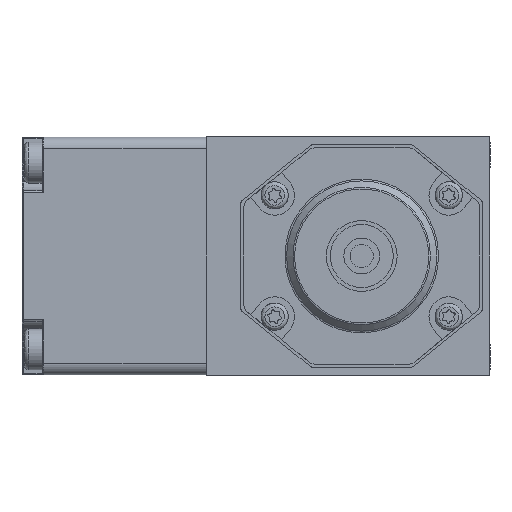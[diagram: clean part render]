
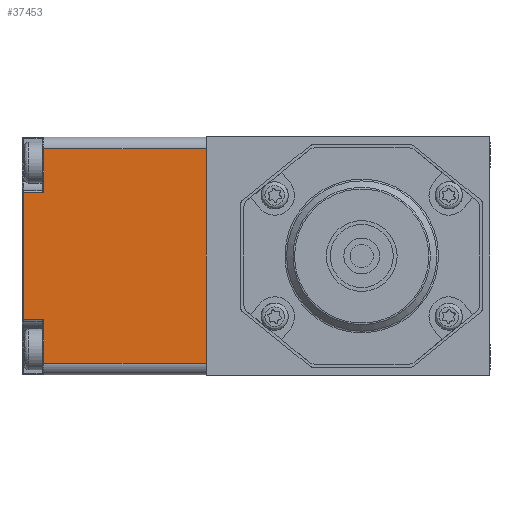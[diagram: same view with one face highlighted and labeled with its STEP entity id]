
A CAD part, left-side view. The second image highlights one B-rep face of the part: STEP entity #37453.
In plain terms, the highlighted planar face has unit normal (-1, 0, 0).
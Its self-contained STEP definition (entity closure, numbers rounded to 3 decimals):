
#825 = EDGE_CURVE ( 'NONE', #32311, #38876, #6198, .T. ) ;
#1169 = CARTESIAN_POINT ( 'NONE',  ( -24.2, 38.1, 8.2 ) ) ;
#3423 = VERTEX_POINT ( 'NONE', #11623 ) ;
#3430 = VECTOR ( 'NONE', #23745, 1000. ) ;
#4108 = EDGE_CURVE ( 'NONE', #38876, #37540, #23415, .T. ) ;
#4874 = VERTEX_POINT ( 'NONE', #41033 ) ;
#5304 = EDGE_CURVE ( 'NONE', #24760, #32311, #43080, .T. ) ;
#5579 = VECTOR ( 'NONE', #15955, 1000. ) ;
#6198 = LINE ( 'NONE', #39230, #35915 ) ;
#6400 = AXIS2_PLACEMENT_3D ( 'NONE', #41965, #30909, #8607 ) ;
#7587 = CARTESIAN_POINT ( 'NONE',  ( -24.2, 38.1, -8.2 ) ) ;
#8303 = LINE ( 'NONE', #36155, #28117 ) ;
#8607 = DIRECTION ( 'NONE',  ( 0., 0., -1. ) ) ;
#8989 = LINE ( 'NONE', #44030, #38709 ) ;
#9179 = EDGE_CURVE ( 'NONE', #3423, #35553, #8989, .T. ) ;
#9260 = ORIENTED_EDGE ( 'NONE', *, *, #20535, .T. ) ;
#10414 = DIRECTION ( 'NONE',  ( 0., -1., 0. ) ) ;
#11369 = ORIENTED_EDGE ( 'NONE', *, *, #38631, .F. ) ;
#11623 = CARTESIAN_POINT ( 'NONE',  ( -24.2, 40.9, 8.2 ) ) ;
#12348 = CARTESIAN_POINT ( 'NONE',  ( -24.2, 43.5, -15.3 ) ) ;
#13331 = LINE ( 'NONE', #12348, #3430 ) ;
#14974 = EDGE_CURVE ( 'NONE', #37540, #29392, #13331, .T. ) ;
#15955 = DIRECTION ( 'NONE',  ( 0., -1., 0. ) ) ;
#17480 = ORIENTED_EDGE ( 'NONE', *, *, #5304, .F. ) ;
#18939 = ORIENTED_EDGE ( 'NONE', *, *, #4108, .F. ) ;
#20535 = EDGE_CURVE ( 'NONE', #24760, #4874, #8303, .T. ) ;
#20537 = LINE ( 'NONE', #32730, #40325 ) ;
#21023 = DIRECTION ( 'NONE',  ( 0., 0., 1. ) ) ;
#22076 = FACE_OUTER_BOUND ( 'NONE', #30433, .T. ) ;
#23275 = CARTESIAN_POINT ( 'NONE',  ( -24.2, 40.9, -8.2 ) ) ;
#23415 = LINE ( 'NONE', #7587, #42030 ) ;
#23433 = PLANE ( 'NONE',  #6400 ) ;
#23744 = CARTESIAN_POINT ( 'NONE',  ( -24.2, 43.5, 8.2 ) ) ;
#23745 = DIRECTION ( 'NONE',  ( 0., 0., 1. ) ) ;
#24760 = VERTEX_POINT ( 'NONE', #47046 ) ;
#25527 = DIRECTION ( 'NONE',  ( 0., 0., 1. ) ) ;
#25876 = DIRECTION ( 'NONE',  ( 0., 1., 0. ) ) ;
#26641 = CARTESIAN_POINT ( 'NONE',  ( -24.2, 40.9, 13.8 ) ) ;
#28117 = VECTOR ( 'NONE', #21023, 1000. ) ;
#29392 = VERTEX_POINT ( 'NONE', #23744 ) ;
#29584 = ORIENTED_EDGE ( 'NONE', *, *, #825, .F. ) ;
#30243 = DIRECTION ( 'NONE',  ( 0., 1., 0. ) ) ;
#30433 = EDGE_LOOP ( 'NONE', ( #11369, #39322, #39694, #47270, #18939, #29584, #17480, #9260 ) ) ;
#30909 = DIRECTION ( 'NONE',  ( 1., 0., 0. ) ) ;
#32311 = VERTEX_POINT ( 'NONE', #33740 ) ;
#32730 = CARTESIAN_POINT ( 'NONE',  ( -24.2, 38.1, 13.8 ) ) ;
#33161 = CARTESIAN_POINT ( 'NONE',  ( -24.2, 38.1, -13.8 ) ) ;
#33740 = CARTESIAN_POINT ( 'NONE',  ( -24.2, 40.9, -13.8 ) ) ;
#35553 = VERTEX_POINT ( 'NONE', #26641 ) ;
#35915 = VECTOR ( 'NONE', #38298, 1000. ) ;
#36155 = CARTESIAN_POINT ( 'NONE',  ( -24.2, 20., 15.35 ) ) ;
#37453 = ADVANCED_FACE ( 'NONE', ( #22076 ), #23433, .F. ) ;
#37540 = VERTEX_POINT ( 'NONE', #38570 ) ;
#37961 = VECTOR ( 'NONE', #25876, 1000. ) ;
#38298 = DIRECTION ( 'NONE',  ( 0., 0., 1. ) ) ;
#38570 = CARTESIAN_POINT ( 'NONE',  ( -24.2, 43.5, -8.2 ) ) ;
#38631 = EDGE_CURVE ( 'NONE', #35553, #4874, #20537, .T. ) ;
#38709 = VECTOR ( 'NONE', #25527, 1000. ) ;
#38876 = VERTEX_POINT ( 'NONE', #23275 ) ;
#39230 = CARTESIAN_POINT ( 'NONE',  ( -24.2, 40.9, -15.3 ) ) ;
#39322 = ORIENTED_EDGE ( 'NONE', *, *, #9179, .F. ) ;
#39694 = ORIENTED_EDGE ( 'NONE', *, *, #43149, .F. ) ;
#40325 = VECTOR ( 'NONE', #10414, 1000. ) ;
#41033 = CARTESIAN_POINT ( 'NONE',  ( -24.2, 20., 13.8 ) ) ;
#41965 = CARTESIAN_POINT ( 'NONE',  ( -24.2, 38.1, -15.3 ) ) ;
#42030 = VECTOR ( 'NONE', #30243, 1000. ) ;
#43080 = LINE ( 'NONE', #33161, #37961 ) ;
#43149 = EDGE_CURVE ( 'NONE', #29392, #3423, #46279, .T. ) ;
#44030 = CARTESIAN_POINT ( 'NONE',  ( -24.2, 40.9, -15.3 ) ) ;
#46279 = LINE ( 'NONE', #1169, #5579 ) ;
#47046 = CARTESIAN_POINT ( 'NONE',  ( -24.2, 20., -13.8 ) ) ;
#47270 = ORIENTED_EDGE ( 'NONE', *, *, #14974, .F. ) ;
